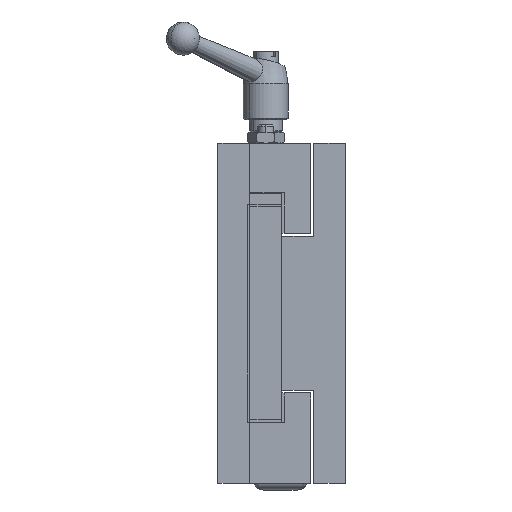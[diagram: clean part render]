
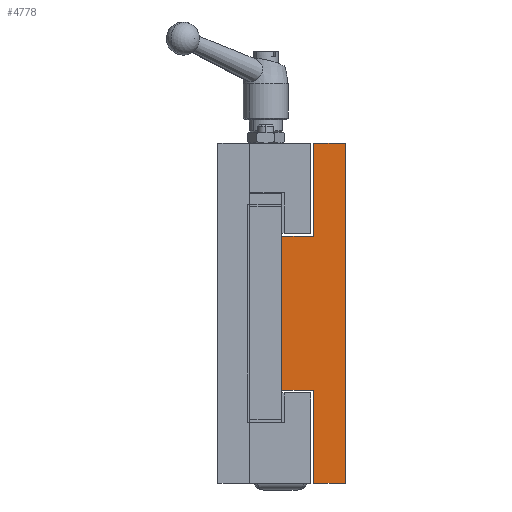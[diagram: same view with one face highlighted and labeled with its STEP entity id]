
A CAD part, left-side view. The second image highlights one B-rep face of the part: STEP entity #4778.
In plain terms, the highlighted planar face has unit normal (-1, 0, 0).
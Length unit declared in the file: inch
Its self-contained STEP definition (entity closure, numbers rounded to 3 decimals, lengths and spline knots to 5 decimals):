
#338 = CARTESIAN_POINT ( 'NONE',  ( 0., 0.75, -0.90625 ) ) ;
#887 = CARTESIAN_POINT ( 'NONE',  ( 0., 0., -2. ) ) ;
#1347 = AXIS2_PLACEMENT_3D ( 'NONE', #5631, #5635, #5636 ) ;
#1893 = VECTOR ( 'NONE', #8725, 39.37008 ) ;
#1895 = VECTOR ( 'NONE', #8717, 39.37008 ) ;
#1900 = VECTOR ( 'NONE', #8722, 39.37008 ) ;
#1901 = VECTOR ( 'NONE', #8715, 39.37008 ) ;
#1902 = VECTOR ( 'NONE', #8709, 39.37008 ) ;
#1905 = VECTOR ( 'NONE', #8711, 39.37008 ) ;
#1924 = VECTOR ( 'NONE', #8720, 39.37008 ) ;
#1961 = VECTOR ( 'NONE', #8678, 39.37008 ) ;
#2676 = ORIENTED_EDGE ( 'NONE', *, *, #4111, .T. ) ;
#2677 = ORIENTED_EDGE ( 'NONE', *, *, #4113, .T. ) ;
#2678 = ORIENTED_EDGE ( 'NONE', *, *, #4116, .F. ) ;
#2679 = ORIENTED_EDGE ( 'NONE', *, *, #4117, .F. ) ;
#2680 = ORIENTED_EDGE ( 'NONE', *, *, #4119, .F. ) ;
#2681 = ORIENTED_EDGE ( 'NONE', *, *, #4122, .T. ) ;
#2682 = ORIENTED_EDGE ( 'NONE', *, *, #4124, .T. ) ;
#2683 = ORIENTED_EDGE ( 'NONE', *, *, #4092, .F. ) ;
#3209 = EDGE_LOOP ( 'NONE', ( #2676, #2677, #2678, #2679, #2680, #2681, #2682, #2683 ) ) ;
#3777 = VERTEX_POINT ( 'NONE', #887 ) ;
#3855 = VERTEX_POINT ( 'NONE', #338 ) ;
#4092 = EDGE_CURVE ( 'NONE', #3855, #4821, #8667, .T. ) ;
#4111 = EDGE_CURVE ( 'NONE', #3855, #4825, #8706, .T. ) ;
#4113 = EDGE_CURVE ( 'NONE', #4825, #4829, #8690, .T. ) ;
#4116 = EDGE_CURVE ( 'NONE', #3777, #4829, #8712, .T. ) ;
#4117 = EDGE_CURVE ( 'NONE', #4823, #3777, #8695, .T. ) ;
#4119 = EDGE_CURVE ( 'NONE', #4828, #4823, #8707, .T. ) ;
#4122 = EDGE_CURVE ( 'NONE', #4828, #4830, #8713, .T. ) ;
#4124 = EDGE_CURVE ( 'NONE', #4830, #4821, #8723, .T. ) ;
#4778 = ADVANCED_FACE ( 'NONE', ( #5634 ), #5629, .F. ) ;
#4821 = VERTEX_POINT ( 'NONE', #5731 ) ;
#4823 = VERTEX_POINT ( 'NONE', #5729 ) ;
#4825 = VERTEX_POINT ( 'NONE', #5723 ) ;
#4828 = VERTEX_POINT ( 'NONE', #5736 ) ;
#4829 = VERTEX_POINT ( 'NONE', #5737 ) ;
#4830 = VERTEX_POINT ( 'NONE', #5738 ) ;
#5629 = PLANE ( 'NONE',  #1347 ) ;
#5631 = CARTESIAN_POINT ( 'NONE',  ( 0., 0., 2. ) ) ;
#5634 = FACE_OUTER_BOUND ( 'NONE', #3209, .T. ) ;
#5635 = DIRECTION ( 'NONE',  ( 1., 0., 0. ) ) ;
#5636 = DIRECTION ( 'NONE',  ( 0., 0., -1. ) ) ;
#5723 = CARTESIAN_POINT ( 'NONE',  ( 0., 0.375, -0.90625 ) ) ;
#5729 = CARTESIAN_POINT ( 'NONE',  ( 0., 0., 2. ) ) ;
#5731 = CARTESIAN_POINT ( 'NONE',  ( 0., 0.75, 0.90625 ) ) ;
#5736 = CARTESIAN_POINT ( 'NONE',  ( 0., 0.375, 2. ) ) ;
#5737 = CARTESIAN_POINT ( 'NONE',  ( 0., 0.375, -2. ) ) ;
#5738 = CARTESIAN_POINT ( 'NONE',  ( 0., 0.375, 0.90625 ) ) ;
#8667 = LINE ( 'NONE', #8677, #1961 ) ;
#8677 = CARTESIAN_POINT ( 'NONE',  ( 0., 0.75, 2. ) ) ;
#8678 = DIRECTION ( 'NONE',  ( 0., 0., 1. ) ) ;
#8690 = LINE ( 'NONE', #8710, #1905 ) ;
#8695 = LINE ( 'NONE', #8716, #1895 ) ;
#8706 = LINE ( 'NONE', #8708, #1902 ) ;
#8707 = LINE ( 'NONE', #8718, #1924 ) ;
#8708 = CARTESIAN_POINT ( 'NONE',  ( 0., 0.75, -0.90625 ) ) ;
#8709 = DIRECTION ( 'NONE',  ( 0., -1., 0. ) ) ;
#8710 = CARTESIAN_POINT ( 'NONE',  ( 0., 0.375, -2. ) ) ;
#8711 = DIRECTION ( 'NONE',  ( 0., 0., -1. ) ) ;
#8712 = LINE ( 'NONE', #8714, #1901 ) ;
#8713 = LINE ( 'NONE', #8721, #1900 ) ;
#8714 = CARTESIAN_POINT ( 'NONE',  ( 0., 0.75, -2. ) ) ;
#8715 = DIRECTION ( 'NONE',  ( 0., 1., 0. ) ) ;
#8716 = CARTESIAN_POINT ( 'NONE',  ( 0., 0., 2. ) ) ;
#8717 = DIRECTION ( 'NONE',  ( 0., 0., -1. ) ) ;
#8718 = CARTESIAN_POINT ( 'NONE',  ( 0., 0.75, 2. ) ) ;
#8720 = DIRECTION ( 'NONE',  ( 0., -1., 0. ) ) ;
#8721 = CARTESIAN_POINT ( 'NONE',  ( 0., 0.375, 2. ) ) ;
#8722 = DIRECTION ( 'NONE',  ( 0., 0., -1. ) ) ;
#8723 = LINE ( 'NONE', #8724, #1893 ) ;
#8724 = CARTESIAN_POINT ( 'NONE',  ( 0., 0.75, 0.90625 ) ) ;
#8725 = DIRECTION ( 'NONE',  ( 0., 1., 0. ) ) ;
